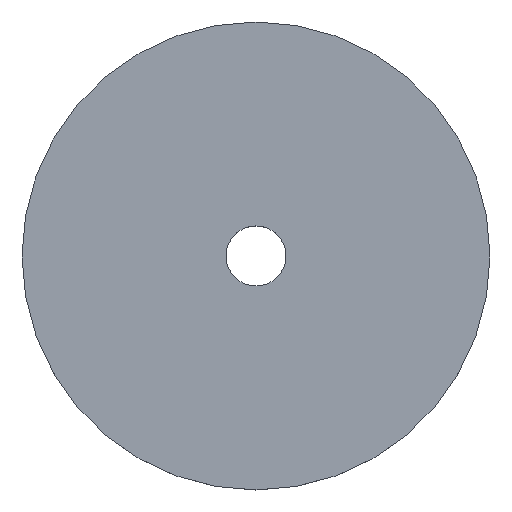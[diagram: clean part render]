
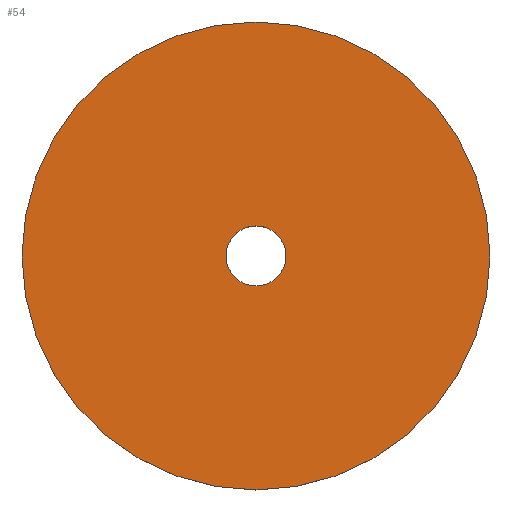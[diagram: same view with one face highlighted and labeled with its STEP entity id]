
A CAD part, top view. The second image highlights one B-rep face of the part: STEP entity #54.
In plain terms, the highlighted planar face has unit normal (0, 0, 1).
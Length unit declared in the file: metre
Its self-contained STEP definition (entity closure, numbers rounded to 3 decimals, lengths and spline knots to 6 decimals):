
#12=PLANE('',#75);
#18=ORIENTED_EDGE('',*,*,#22,.T.);
#19=ORIENTED_EDGE('',*,*,#24,.F.);
#22=EDGE_CURVE('',#26,#26,#30,.T.);
#24=EDGE_CURVE('',#28,#28,#32,.T.);
#26=VERTEX_POINT('',#98);
#28=VERTEX_POINT('',#103);
#30=CIRCLE('',#70,0.0195);
#32=CIRCLE('',#73,0.0025);
#38=EDGE_LOOP('',(#18));
#39=EDGE_LOOP('',(#19));
#46=FACE_BOUND('',#38,.T.);
#47=FACE_BOUND('',#39,.T.);
#54=ADVANCED_FACE('',(#46,#47),#12,.T.);
#70=AXIS2_PLACEMENT_3D('',#97,#81,#82);
#73=AXIS2_PLACEMENT_3D('',#102,#87,#88);
#75=AXIS2_PLACEMENT_3D('',#106,#91,#92);
#81=DIRECTION('',(0.,0.,1.));
#82=DIRECTION('',(1.,0.,0.));
#87=DIRECTION('',(0.,0.,1.));
#88=DIRECTION('',(1.,0.,0.));
#91=DIRECTION('',(0.,0.,1.));
#92=DIRECTION('',(1.,0.,0.));
#97=CARTESIAN_POINT('',(0.,0.,0.002));
#98=CARTESIAN_POINT('',(0.0195,0.,0.002));
#102=CARTESIAN_POINT('',(0.,0.,0.002));
#103=CARTESIAN_POINT('',(0.0025,0.,0.002));
#106=CARTESIAN_POINT('',(0.,-0.0025,0.002));
